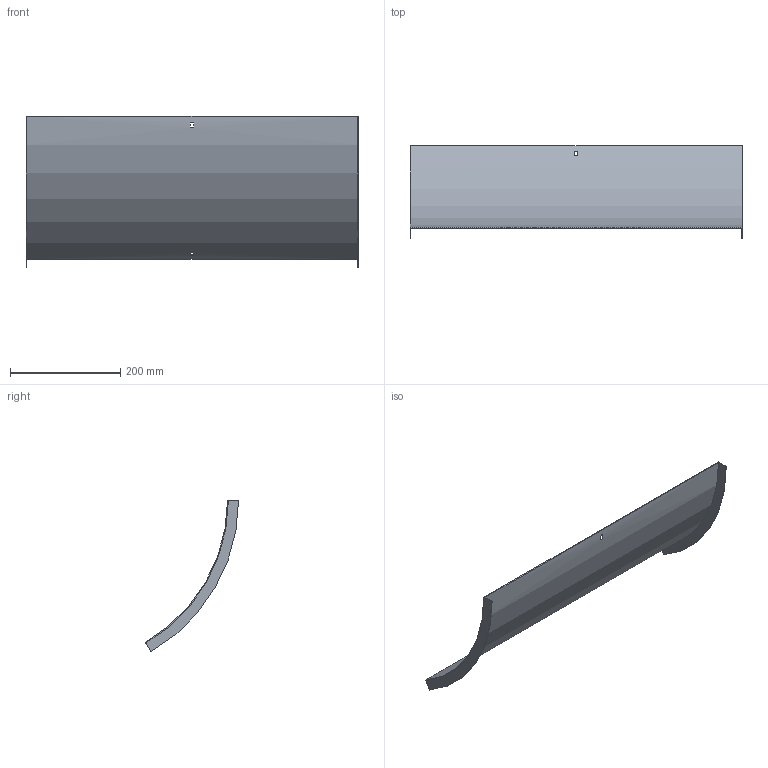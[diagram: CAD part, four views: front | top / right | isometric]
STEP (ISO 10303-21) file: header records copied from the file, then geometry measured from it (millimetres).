
FILE_DESCRIPTION (( 'STEP AP214' ), '1' );
FILE_NAME ('B2X40N3R600X.step', '2025-03-20T09:44:45', ( '' ), ( '' ), 'SwSTEP 2.0', 'SolidWorks 2023', '' );
FILE_SCHEMA (( 'AUTOMOTIVE_DESIGN' ));
Length unit declared in the file: millimetre
Products named in the file (1): B2X40N3R600X
Bounding box: 603 x 169.25 x 275.83 mm (x, y, z)
Volume: 301244.3 mm3; surface area: 404670.5 mm2
Topology: 1 solids, 1 shells, 18 faces, 48 edges, 32 vertices
Faces by surface type: plane 14, cylinder 4
Entity records: 599 total; most frequent: DIRECTION 102, CARTESIAN_POINT 99, ORIENTED_EDGE 96, EDGE_CURVE 48, AXIS2_PLACEMENT_3D 35, LINE 32, VERTEX_POINT 32, VECTOR 32
